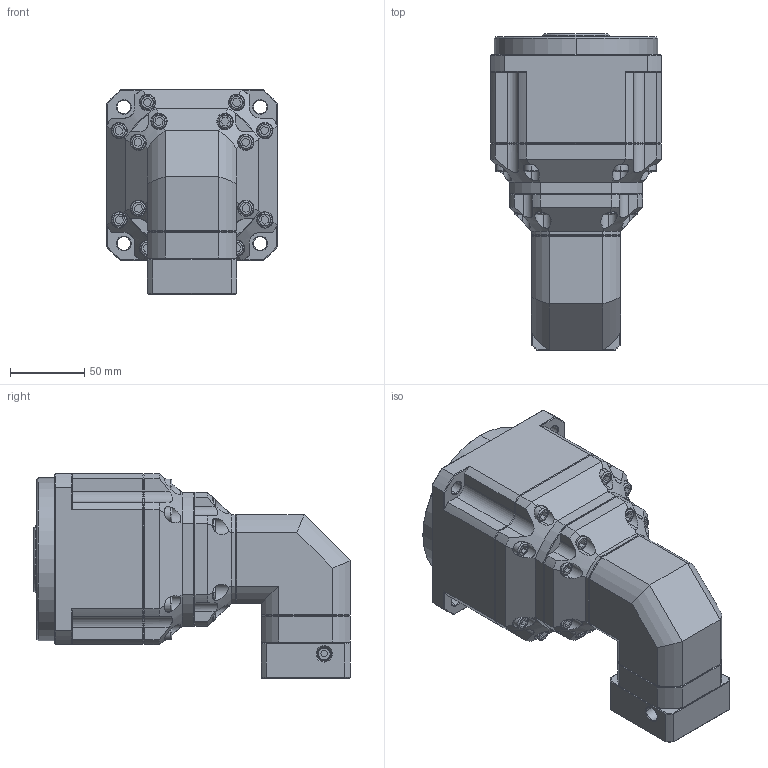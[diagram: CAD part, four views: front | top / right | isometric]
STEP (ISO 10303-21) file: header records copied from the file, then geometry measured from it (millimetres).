
FILE_DESCRIPTION (( 'STEP AP214' ), '1' );
FILE_NAME ('ZPBR115-K32-L3-P1-6.35-38.1-47.14X47.14-M4.step', '2024-06-29T08:17:47', ( 'Windows 蚚誧' ), ( 'Organization' ), 'SwSTEP 2.0', 'SolidWorks 2016', '' );
FILE_SCHEMA (( 'AUTOMOTIVE_DESIGN' ));
Length unit declared in the file: millimetre
Products named in the file (1): ZPBR115-K32-L3-P1-6.35-38.1-47.14X47.14-M4
Bounding box: 115 x 213 x 137.5 mm (x, y, z)
Surface area: 123521.2 mm2 (no closed solid volume)
Topology: 0 solids, 2 shells, 1958 faces, 5214 edges, 3370 vertices
Faces by surface type: plane 1134, bspline 406, cylinder 236, cone 182
Entity records: 94996 total; most frequent: CARTESIAN_POINT 40894, ORIENTED_EDGE 10426, DIRECTION 7841, EDGE_CURVE 5214, VECTOR 3425, LINE 3425, VERTEX_POINT 3370, AXIS2_PLACEMENT_3D 2208
